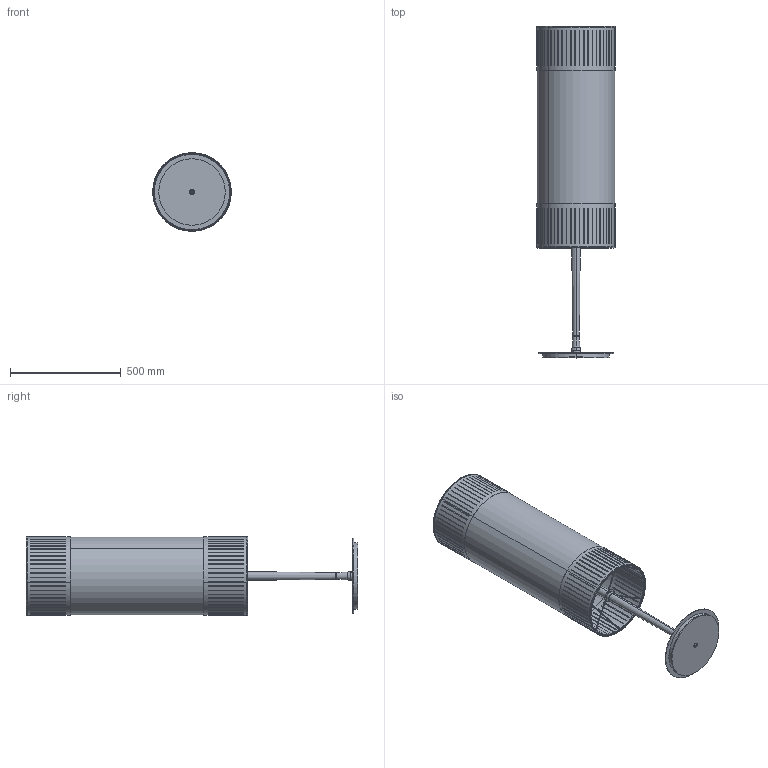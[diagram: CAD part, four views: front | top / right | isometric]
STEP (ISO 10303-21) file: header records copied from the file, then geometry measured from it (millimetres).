
FILE_DESCRIPTION (( 'STEP AP214' ), '1' );
FILE_NAME ('TAMIZ FLOOR.STEP', '2025-07-23T11:54:57', ( '' ), ( '' ), 'SwSTEP 2.0', 'SolidWorks 2016', '' );
FILE_SCHEMA (( 'AUTOMOTIVE_DESIGN' ));
Length unit declared in the file: millimetre
Products named in the file (32): DISCO MDF TEÑIDO NEGRO Ø30CM; PANTALLA TROQUELADA SUPERIOR; PANTALLA PRUEBAS ACABADO PARA RENDER; PIEZA SUPERIOR CASQUILLO BOMBILLA E27; EMBELLECEDOR TELA PANTALLA REDONDA; ESTRUCTURA PANTALLA TAMIZ SUELO; PALO 90 TROMPETA CON AGUJERO PASANTE PARA LÁMPARA TUBO; CASQUILLO CON ARANDELAS ROSCADA PARA BOMBILLA E27; DISCO HIERRO Ø30CM TAMIZ SUELO; PANTALLA MADERA CILINDRICA CON DOBLE CHAPA MADERA SIN AROS FIJACION; BOMBILLA E27; PIEZA INFERIOR CASQUILLO BOMBILLA E27; ARANDELA CASQUILLO BOMBILLA E27; DISCO DE MADERA Ø35CM; ARANDELA METALICA 1CM; TAMIZ FLOOR
Assembly tree (18 placements, depth 3):
  DISCO MDF TEÑIDO NEGRO Ø30CM
  PANTALLA PRUEBAS ACABADO PARA RENDER
  PANTALLA TROQUELADA SUPERIOR
  ESTRUCTURA PANTALLA TAMIZ SUELO
  PALO 90 TROMPETA CON AGUJERO PASANTE PARA LÁMPARA TUBO
Bounding box: 354.99 x 1498.76 x 354.99 mm (x, y, z)
Volume: 3051137.8 mm3; surface area: 2722217.4 mm2
Topology: 16 solids, 17 shells, 810 faces, 2334 edges, 1543 vertices
Faces by surface type: plane 585, cylinder 181, torus 32, cone 8, bspline 2, sphere 2
Entity records: 19481 total; most frequent: CARTESIAN_POINT 3950, DIRECTION 3169, ORIENTED_EDGE 3004, EDGE_CURVE 1504, AXIS2_PLACEMENT_3D 1179, VERTEX_POINT 990, VECTOR 811, LINE 811
